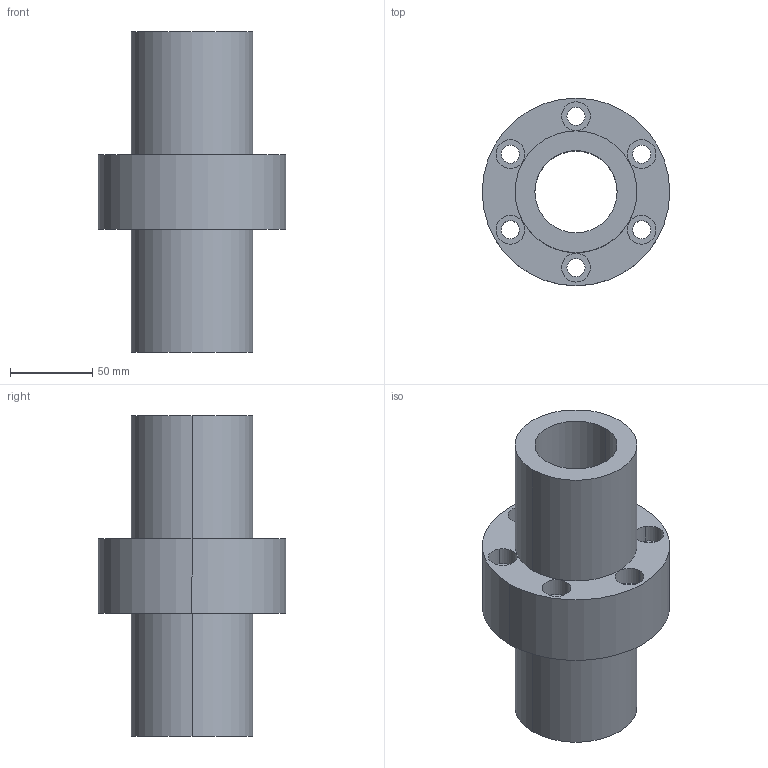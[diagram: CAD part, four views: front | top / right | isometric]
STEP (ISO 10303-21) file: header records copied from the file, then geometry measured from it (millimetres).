
FILE_DESCRIPTION((''),'2;1');
FILE_NAME('50-10T4','2008-04-07T',('yanyu'),(''),'PRO/ENGINEER BY PARAMETRIC TECHNOLOGY CORPORATION, 2005070','PRO/ENGINEER BY PARAMETRIC TECHNOLOGY CORPORATION, 2005070','');
FILE_SCHEMA(('CONFIG_CONTROL_DESIGN'));
Length unit declared in the file: millimetre
Products named in the file (1): 50-10T4
Bounding box: 114 x 114 x 195 mm (x, y, z)
Volume: 686299.4 mm3; surface area: 107643.5 mm2
Topology: 1 solids, 1 shells, 42 faces, 104 edges, 72 vertices
Faces by surface type: cylinder 32, plane 10
Entity records: 1370 total; most frequent: DIRECTION 260, CARTESIAN_POINT 218, ORIENTED_EDGE 208, AXIS2_PLACEMENT_3D 114, EDGE_CURVE 104, VERTEX_POINT 72, CIRCLE 72, EDGE_LOOP 64
